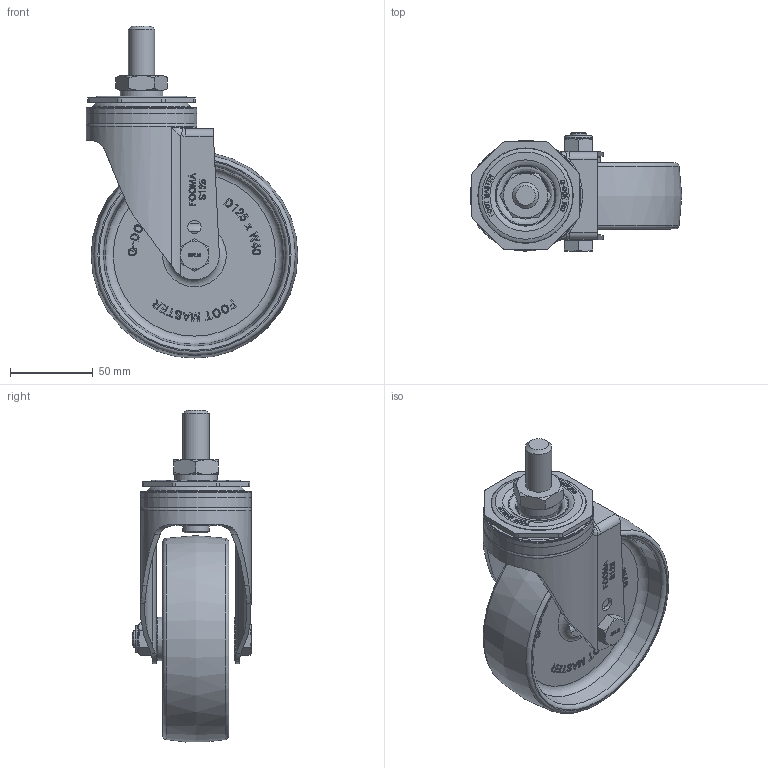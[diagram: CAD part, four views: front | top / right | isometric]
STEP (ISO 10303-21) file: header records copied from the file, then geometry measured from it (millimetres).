
FILE_DESCRIPTION(/* description */ (''),/* implementation_level */ '2;1');
FILE_NAME(/* name */ '\\192.168.10.38\지덕공유\1.기술연구소\2.연구개발 완료\완료_98.스테인레스캐스터 개발건_2023.10.26\제품설계\3D\홈페이지용\NYP\STP\SPLM-125-ASS-NYP.stp',/* time_stamp */ '2025-07-17T17:53:15+09:00',/* author */ ('admin'),/* organization */ ('지덕산업'),/* preprocessor_version */ 'ST-DEVELOPER v18.1',/* originating_system */ 'Autodesk Inventor 2021',/* authorisation */ '');
FILE_SCHEMA (('CONFIG_CONTROL_DESIGN'));
Length unit declared in the file: millimetre
Products named in the file (1): SPLM-125-ASS-NYP
Bounding box: 128 x 72.3 x 200.82 mm (x, y, z)
Volume: 323734.3 mm3; surface area: 90238.5 mm2
Topology: 1 solids, 1 shells, 1359 faces, 3701 edges, 2449 vertices
Faces by surface type: plane 696, bspline 462, cylinder 95, cone 73, torus 33
Full cylindrical faces by diameter (mm): 8 x2, 10 x1, 11 x1, 15.875 x1, 16 x2, 16.5 x1, 25.8 x1, 54 x1, 64 x1, 67 x1
Entity records: 43977 total; most frequent: CARTESIAN_POINT 12894, ORIENTED_EDGE 7398, DIRECTION 4738, EDGE_CURVE 3699, VERTEX_POINT 2449, LINE 2230, VECTOR 2230, EDGE_LOOP 1472
